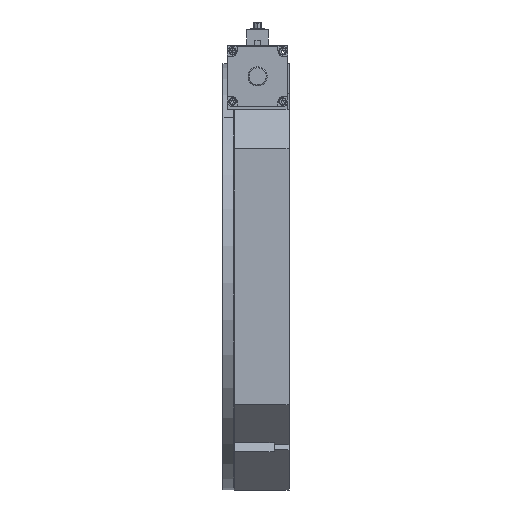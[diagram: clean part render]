
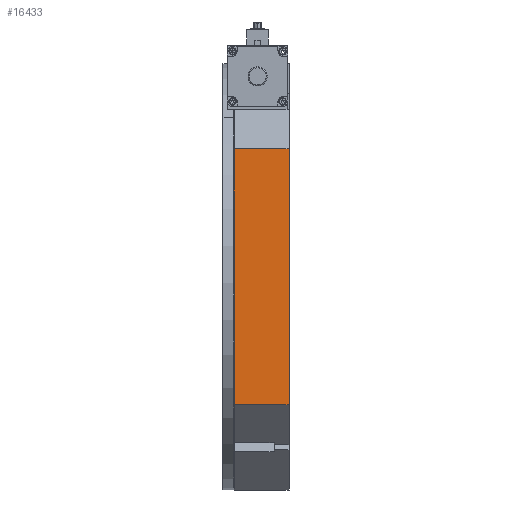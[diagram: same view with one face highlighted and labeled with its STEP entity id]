
A CAD part, left-side view. The second image highlights one B-rep face of the part: STEP entity #16433.
In plain terms, the highlighted planar face has unit normal (-1, 0, 0).
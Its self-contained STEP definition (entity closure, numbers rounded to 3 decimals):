
#1953 = CARTESIAN_POINT ( 'NONE',  ( -200., 51.5, -200. ) ) ;
#2058 = CARTESIAN_POINT ( 'NONE',  ( -200., 0., -200. ) ) ;
#2060 = DIRECTION ( 'NONE',  ( 0., 0., 1. ) ) ;
#2067 = DIRECTION ( 'NONE',  ( 0., 0., 1. ) ) ;
#2268 = DIRECTION ( 'NONE',  ( 0., 1., 0. ) ) ;
#2277 = CARTESIAN_POINT ( 'NONE',  ( -200., 51.5, -120. ) ) ;
#2282 = CARTESIAN_POINT ( 'NONE',  ( -200., 51.5, 120. ) ) ;
#2286 = DIRECTION ( 'NONE',  ( 0., -1., 0. ) ) ;
#3769 = EDGE_CURVE ( 'NONE', #16700, #16590, #15235, .T. ) ;
#3773 = EDGE_CURVE ( 'NONE', #16700, #16600, #15256, .T. ) ;
#3774 = EDGE_CURVE ( 'NONE', #16590, #16780, #15603, .T. ) ;
#3802 = EDGE_CURVE ( 'NONE', #16780, #16600, #15404, .T. ) ;
#5325 = EDGE_LOOP ( 'NONE', ( #17188, #16684, #16744, #17333 ) ) ;
#7053 = PLANE ( 'NONE',  #14103 ) ;
#7191 = DIRECTION ( 'NONE',  ( 0., 0., -1. ) ) ;
#7296 = CARTESIAN_POINT ( 'NONE',  ( -200., 51.5, 120. ) ) ;
#7317 = CARTESIAN_POINT ( 'NONE',  ( -200., 51.5, -120. ) ) ;
#7342 = DIRECTION ( 'NONE',  ( 1., 0., 0. ) ) ;
#7421 = CARTESIAN_POINT ( 'NONE',  ( -200., 0., 120. ) ) ;
#7515 = CARTESIAN_POINT ( 'NONE',  ( -200., 51.5, -200. ) ) ;
#7588 = CARTESIAN_POINT ( 'NONE',  ( -200., 0., -120. ) ) ;
#9053 = FACE_OUTER_BOUND ( 'NONE', #5325, .T. ) ;
#14103 = AXIS2_PLACEMENT_3D ( 'NONE', #7515, #7342, #7191 ) ;
#15083 = VECTOR ( 'NONE', #2067, 1000. ) ;
#15211 = VECTOR ( 'NONE', #2060, 1000. ) ;
#15235 = LINE ( 'NONE', #2277, #15705 ) ;
#15256 = LINE ( 'NONE', #1953, #15211 ) ;
#15404 = LINE ( 'NONE', #2282, #15656 ) ;
#15603 = LINE ( 'NONE', #2058, #15083 ) ;
#15656 = VECTOR ( 'NONE', #2268, 1000. ) ;
#15705 = VECTOR ( 'NONE', #2286, 1000. ) ;
#16433 = ADVANCED_FACE ( 'NONE', ( #9053 ), #7053, .F. ) ;
#16590 = VERTEX_POINT ( 'NONE', #7588 ) ;
#16600 = VERTEX_POINT ( 'NONE', #7296 ) ;
#16684 = ORIENTED_EDGE ( 'NONE', *, *, #3802, .T. ) ;
#16700 = VERTEX_POINT ( 'NONE', #7317 ) ;
#16744 = ORIENTED_EDGE ( 'NONE', *, *, #3773, .F. ) ;
#16780 = VERTEX_POINT ( 'NONE', #7421 ) ;
#17188 = ORIENTED_EDGE ( 'NONE', *, *, #3774, .T. ) ;
#17333 = ORIENTED_EDGE ( 'NONE', *, *, #3769, .T. ) ;
